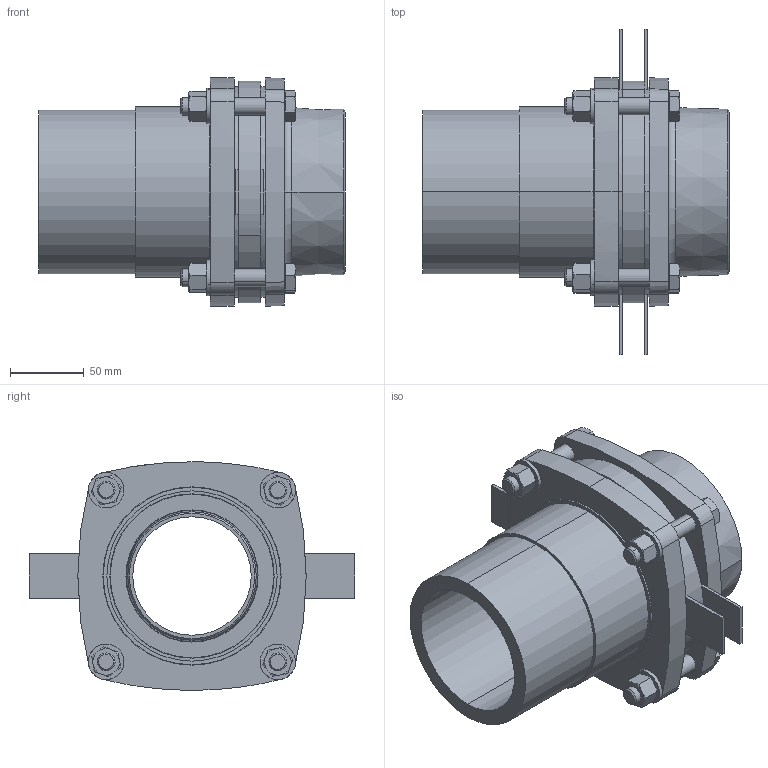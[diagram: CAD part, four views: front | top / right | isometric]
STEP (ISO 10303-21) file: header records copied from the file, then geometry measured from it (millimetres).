
FILE_DESCRIPTION (( 'STEP AP203' ), '1' );
FILE_NAME ('KP_C16-110M.step', '2011-08-08T12:00:16', ( '' ), ( '' ), 'SwSTEP 2.0', 'SolidWorks 2011', '' );
FILE_SCHEMA (( 'CONFIG_CONTROL_DESIGN' ));
Length unit declared in the file: millimetre
Products named in the file (1): KP_C16-110M
Bounding box: 207 x 220 x 154.31 mm (x, y, z)
Volume: 1338915 mm3; surface area: 290456.6 mm2
Topology: 1 solids, 1 shells, 405 faces, 895 edges, 532 vertices
Faces by surface type: plane 146, cone 136, cylinder 101, torus 22
Entity records: 11740 total; most frequent: CARTESIAN_POINT 2665, DIRECTION 2005, ORIENTED_EDGE 1790, EDGE_CURVE 895, AXIS2_PLACEMENT_3D 848, VERTEX_POINT 532, EDGE_LOOP 455, CIRCLE 442
